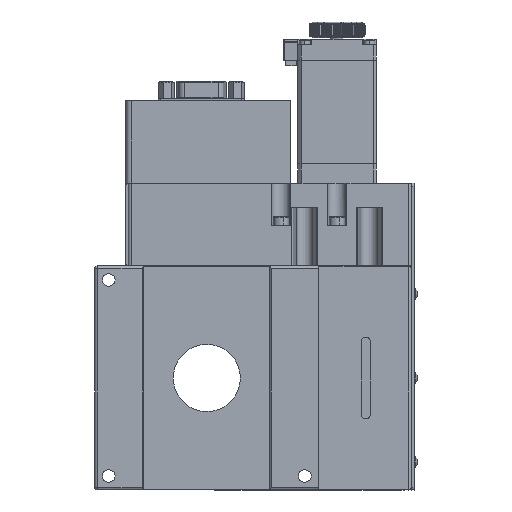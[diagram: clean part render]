
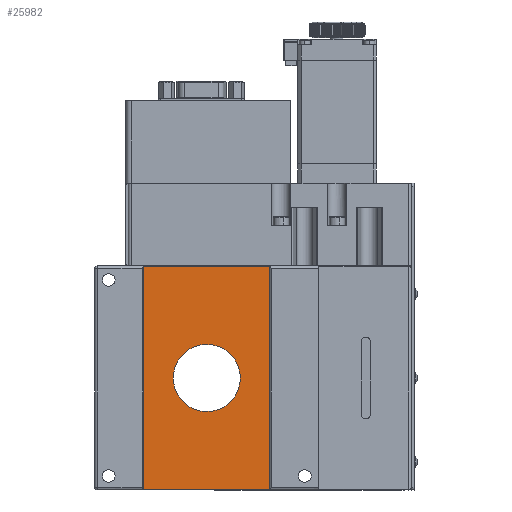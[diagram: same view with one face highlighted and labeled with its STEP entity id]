
A CAD part, front view. The second image highlights one B-rep face of the part: STEP entity #25982.
In plain terms, the highlighted planar face has unit normal (0, -1, 0).
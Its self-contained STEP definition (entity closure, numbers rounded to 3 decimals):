
#6334 = CARTESIAN_POINT ( 'NONE',  ( 0., -11.75, 0. ) ) ;
#6863 = ORIENTED_EDGE ( 'NONE', *, *, #51803, .F. ) ;
#7422 = CARTESIAN_POINT ( 'NONE',  ( 22.5, -11.75, 39.866 ) ) ;
#9460 = DIRECTION ( 'NONE',  ( -1., 0., 0. ) ) ;
#12360 = VECTOR ( 'NONE', #66832, 1000. ) ;
#12391 = ORIENTED_EDGE ( 'NONE', *, *, #26718, .F. ) ;
#12713 = ORIENTED_EDGE ( 'NONE', *, *, #45514, .T. ) ;
#13250 = CARTESIAN_POINT ( 'NONE',  ( 0., -11.75, 0. ) ) ;
#13309 = VERTEX_POINT ( 'NONE', #58357 ) ;
#14779 = CARTESIAN_POINT ( 'NONE',  ( -12., -11.75, 0. ) ) ;
#14917 = EDGE_LOOP ( 'NONE', ( #53247, #12713, #63135, #25802 ) ) ;
#18365 = CARTESIAN_POINT ( 'NONE',  ( -22.5, -11.75, -39.866 ) ) ;
#18599 = LINE ( 'NONE', #78431, #12360 ) ;
#20474 = VERTEX_POINT ( 'NONE', #18365 ) ;
#21315 = CARTESIAN_POINT ( 'NONE',  ( 0., -11.75, 0. ) ) ;
#25802 = ORIENTED_EDGE ( 'NONE', *, *, #83064, .T. ) ;
#25982 = ADVANCED_FACE ( 'NONE', ( #82449, #88253 ), #27959, .T. ) ;
#26296 = EDGE_CURVE ( 'NONE', #20474, #83022, #66329, .T. ) ;
#26718 = EDGE_CURVE ( 'NONE', #71824, #13309, #78023, .T. ) ;
#27959 = PLANE ( 'NONE',  #30833 ) ;
#30833 = AXIS2_PLACEMENT_3D ( 'NONE', #13250, #68626, #61029 ) ;
#35003 = CARTESIAN_POINT ( 'NONE',  ( -22.5, -11.75, -39.866 ) ) ;
#35124 = VECTOR ( 'NONE', #74788, 1000. ) ;
#35170 = DIRECTION ( 'NONE',  ( 1., 0., 0. ) ) ;
#36655 = AXIS2_PLACEMENT_3D ( 'NONE', #6334, #82242, #47405 ) ;
#38488 = EDGE_CURVE ( 'NONE', #57707, #76622, #71533, .T. ) ;
#39972 = LINE ( 'NONE', #73042, #87495 ) ;
#45514 = EDGE_CURVE ( 'NONE', #76622, #20474, #39972, .T. ) ;
#47405 = DIRECTION ( 'NONE',  ( 1., 0., 0. ) ) ;
#48551 = DIRECTION ( 'NONE',  ( 0., -1., 0. ) ) ;
#51803 = EDGE_CURVE ( 'NONE', #13309, #71824, #53785, .T. ) ;
#53247 = ORIENTED_EDGE ( 'NONE', *, *, #38488, .T. ) ;
#53785 = CIRCLE ( 'NONE', #66692, 12. ) ;
#53800 = DIRECTION ( 'NONE',  ( 0., 0., -1. ) ) ;
#57670 = CARTESIAN_POINT ( 'NONE',  ( -22.5, -11.75, 39.866 ) ) ;
#57707 = VERTEX_POINT ( 'NONE', #7422 ) ;
#58357 = CARTESIAN_POINT ( 'NONE',  ( 12., -11.75, 0. ) ) ;
#61029 = DIRECTION ( 'NONE',  ( 1., 0., 0. ) ) ;
#63135 = ORIENTED_EDGE ( 'NONE', *, *, #26296, .T. ) ;
#63162 = VECTOR ( 'NONE', #9460, 1000. ) ;
#66329 = LINE ( 'NONE', #35003, #35124 ) ;
#66692 = AXIS2_PLACEMENT_3D ( 'NONE', #21315, #48551, #35170 ) ;
#66832 = DIRECTION ( 'NONE',  ( 0., 0., 1. ) ) ;
#68626 = DIRECTION ( 'NONE',  ( 0., -1., 0. ) ) ;
#71533 = LINE ( 'NONE', #78669, #63162 ) ;
#71738 = CARTESIAN_POINT ( 'NONE',  ( 22.5, -11.75, -39.866 ) ) ;
#71824 = VERTEX_POINT ( 'NONE', #14779 ) ;
#73042 = CARTESIAN_POINT ( 'NONE',  ( -22.5, -11.75, 40. ) ) ;
#74788 = DIRECTION ( 'NONE',  ( 1., 0., 0. ) ) ;
#75722 = EDGE_LOOP ( 'NONE', ( #12391, #6863 ) ) ;
#76622 = VERTEX_POINT ( 'NONE', #57670 ) ;
#78023 = CIRCLE ( 'NONE', #36655, 12. ) ;
#78431 = CARTESIAN_POINT ( 'NONE',  ( 22.5, -11.75, 40. ) ) ;
#78669 = CARTESIAN_POINT ( 'NONE',  ( 22.5, -11.75, 39.866 ) ) ;
#82242 = DIRECTION ( 'NONE',  ( 0., -1., 0. ) ) ;
#82449 = FACE_BOUND ( 'NONE', #75722, .T. ) ;
#83022 = VERTEX_POINT ( 'NONE', #71738 ) ;
#83064 = EDGE_CURVE ( 'NONE', #83022, #57707, #18599, .T. ) ;
#87495 = VECTOR ( 'NONE', #53800, 1000. ) ;
#88253 = FACE_OUTER_BOUND ( 'NONE', #14917, .T. ) ;
